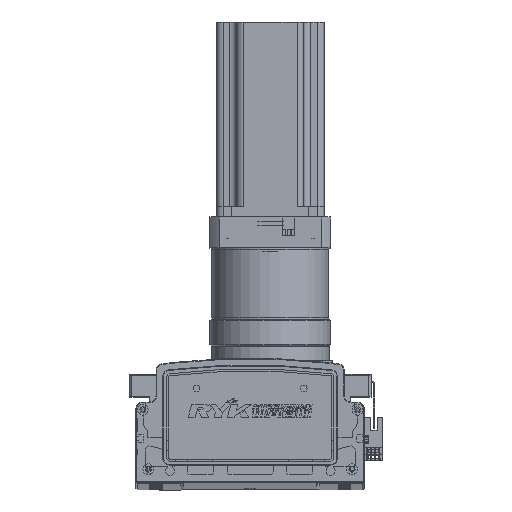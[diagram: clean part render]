
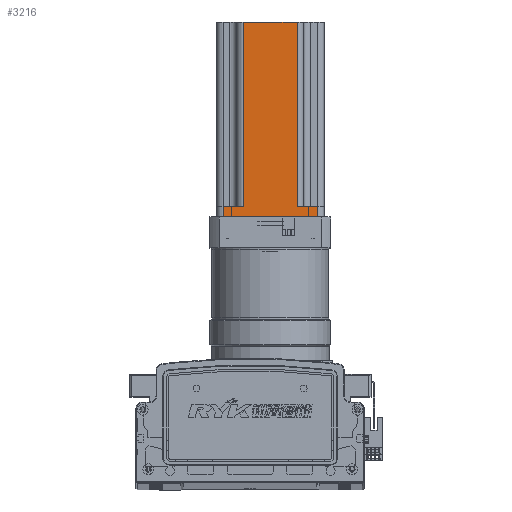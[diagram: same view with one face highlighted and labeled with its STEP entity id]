
A CAD part, top view. The second image highlights one B-rep face of the part: STEP entity #3216.
In plain terms, the highlighted planar face has unit normal (0, 0, 1) as drawn and (0, -1, 0) by its records, which use the part's own axes.
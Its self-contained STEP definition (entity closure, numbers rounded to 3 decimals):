
#3216 = ADVANCED_FACE ( 'NONE', ( #69578 ), #21691, .F. ) ;
#14059 = DIRECTION ( 'NONE',  ( 1., 0., 0. ) ) ;
#14102 = CARTESIAN_POINT ( 'NONE',  ( -87.587, -40.37, 0. ) ) ;
#14283 = DIRECTION ( 'NONE',  ( 0., 0., -1. ) ) ;
#14286 = CARTESIAN_POINT ( 'NONE',  ( -67.587, -40.37, 145. ) ) ;
#14300 = CARTESIAN_POINT ( 'NONE',  ( -7.587, -40.37, 8. ) ) ;
#14330 = DIRECTION ( 'NONE',  ( 1., 0., 0. ) ) ;
#14375 = CARTESIAN_POINT ( 'NONE',  ( -27.587, -40.37, 145. ) ) ;
#14379 = DIRECTION ( 'NONE',  ( 0., 0., 1. ) ) ;
#14438 = CARTESIAN_POINT ( 'NONE',  ( -87.587, -40.37, 145. ) ) ;
#14452 = CARTESIAN_POINT ( 'NONE',  ( -82.587, -40.37, 145. ) ) ;
#14457 = DIRECTION ( 'NONE',  ( 0., 0., -1. ) ) ;
#14478 = DIRECTION ( 'NONE',  ( 1., 0., 0. ) ) ;
#14516 = DIRECTION ( 'NONE',  ( 1., 0., 0. ) ) ;
#14534 = CARTESIAN_POINT ( 'NONE',  ( -87.587, -40.37, 8. ) ) ;
#14619 = DIRECTION ( 'NONE',  ( 0., 0., 1. ) ) ;
#14625 = CARTESIAN_POINT ( 'NONE',  ( -12.587, -40.37, 145. ) ) ;
#20913 = LINE ( 'NONE', #14102, #20931 ) ;
#20931 = VECTOR ( 'NONE', #14059, 1000. ) ;
#20943 = LINE ( 'NONE', #14286, #20973 ) ;
#20968 = LINE ( 'NONE', #14300, #20969 ) ;
#20969 = VECTOR ( 'NONE', #14330, 1000. ) ;
#20973 = VECTOR ( 'NONE', #14283, 1000. ) ;
#20991 = LINE ( 'NONE', #14375, #20993 ) ;
#20993 = VECTOR ( 'NONE', #14379, 1000. ) ;
#21013 = VECTOR ( 'NONE', #14457, 1000. ) ;
#21015 = LINE ( 'NONE', #14438, #21028 ) ;
#21016 = LINE ( 'NONE', #14452, #21013 ) ;
#21018 = LINE ( 'NONE', #14534, #21025 ) ;
#21025 = VECTOR ( 'NONE', #14516, 1000. ) ;
#21028 = VECTOR ( 'NONE', #14478, 1000. ) ;
#21073 = LINE ( 'NONE', #14625, #21101 ) ;
#21101 = VECTOR ( 'NONE', #14619, 1000. ) ;
#21670 = CARTESIAN_POINT ( 'NONE',  ( -87.587, -40.37, 145. ) ) ;
#21691 = PLANE ( 'NONE',  #71144 ) ;
#21702 = DIRECTION ( 'NONE',  ( -1., 0., 0. ) ) ;
#21715 = DIRECTION ( 'NONE',  ( 0., 1., 0. ) ) ;
#31338 = VERTEX_POINT ( 'NONE', #50013 ) ;
#31489 = VERTEX_POINT ( 'NONE', #50168 ) ;
#31513 = VERTEX_POINT ( 'NONE', #50210 ) ;
#31532 = VERTEX_POINT ( 'NONE', #50224 ) ;
#31564 = VERTEX_POINT ( 'NONE', #50259 ) ;
#31571 = VERTEX_POINT ( 'NONE', #50243 ) ;
#31653 = VERTEX_POINT ( 'NONE', #51420 ) ;
#31674 = VERTEX_POINT ( 'NONE', #51502 ) ;
#50013 = CARTESIAN_POINT ( 'NONE',  ( -82.587, -40.37, 0. ) ) ;
#50168 = CARTESIAN_POINT ( 'NONE',  ( -12.587, -40.37, 0. ) ) ;
#50210 = CARTESIAN_POINT ( 'NONE',  ( -67.587, -40.37, 145. ) ) ;
#50224 = CARTESIAN_POINT ( 'NONE',  ( -12.587, -40.37, 8. ) ) ;
#50243 = CARTESIAN_POINT ( 'NONE',  ( -67.587, -40.37, 8. ) ) ;
#50259 = CARTESIAN_POINT ( 'NONE',  ( -27.587, -40.37, 145. ) ) ;
#51420 = CARTESIAN_POINT ( 'NONE',  ( -27.587, -40.37, 8. ) ) ;
#51502 = CARTESIAN_POINT ( 'NONE',  ( -82.587, -40.37, 8. ) ) ;
#58466 = EDGE_CURVE ( 'NONE', #31338, #31489, #20913, .T. ) ;
#58513 = EDGE_CURVE ( 'NONE', #31653, #31532, #20968, .T. ) ;
#58519 = EDGE_CURVE ( 'NONE', #31513, #31571, #20943, .T. ) ;
#58534 = EDGE_CURVE ( 'NONE', #31653, #31564, #20991, .T. ) ;
#58548 = EDGE_CURVE ( 'NONE', #31674, #31338, #21016, .T. ) ;
#58554 = EDGE_CURVE ( 'NONE', #31513, #31564, #21015, .T. ) ;
#58564 = EDGE_CURVE ( 'NONE', #31674, #31571, #21018, .T. ) ;
#58583 = EDGE_CURVE ( 'NONE', #31489, #31532, #21073, .T. ) ;
#69578 = FACE_OUTER_BOUND ( 'NONE', #80463, .T. ) ;
#71144 = AXIS2_PLACEMENT_3D ( 'NONE', #21670, #21715, #21702 ) ;
#80463 = EDGE_LOOP ( 'NONE', ( #92902, #92954, #92888, #92918, #92898, #92896, #92862, #92926 ) ) ;
#92862 = ORIENTED_EDGE ( 'NONE', *, *, #58554, .F. ) ;
#92888 = ORIENTED_EDGE ( 'NONE', *, *, #58466, .T. ) ;
#92896 = ORIENTED_EDGE ( 'NONE', *, *, #58534, .T. ) ;
#92898 = ORIENTED_EDGE ( 'NONE', *, *, #58513, .F. ) ;
#92902 = ORIENTED_EDGE ( 'NONE', *, *, #58564, .F. ) ;
#92918 = ORIENTED_EDGE ( 'NONE', *, *, #58583, .T. ) ;
#92926 = ORIENTED_EDGE ( 'NONE', *, *, #58519, .T. ) ;
#92954 = ORIENTED_EDGE ( 'NONE', *, *, #58548, .T. ) ;
